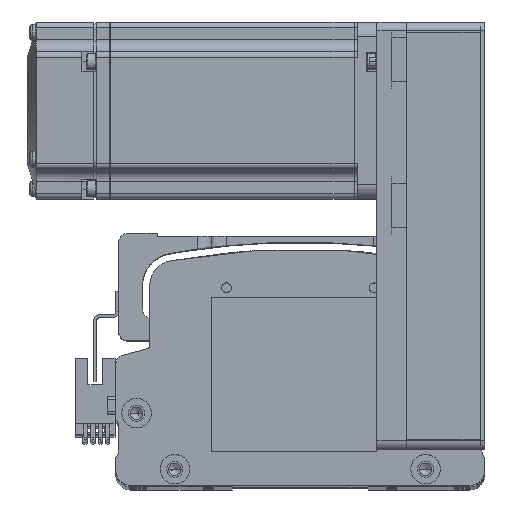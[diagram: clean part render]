
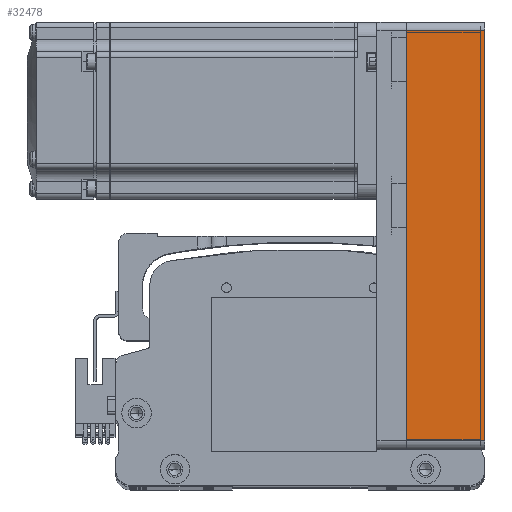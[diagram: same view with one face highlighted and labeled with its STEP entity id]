
A CAD part, top view. The second image highlights one B-rep face of the part: STEP entity #32478.
In plain terms, the highlighted planar face has unit normal (0, 0, 1) as drawn and (0, 1, 0) by its records, which use the part's own axes.
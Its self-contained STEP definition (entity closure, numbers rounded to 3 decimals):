
#1349 = DIRECTION ( 'NONE',  ( 1., 0., 0. ) ) ;
#1686 = CARTESIAN_POINT ( 'NONE',  ( -69.5, 30., 26.5 ) ) ;
#14342 = ORIENTED_EDGE ( 'NONE', *, *, #75608, .T. ) ;
#15457 = EDGE_LOOP ( 'NONE', ( #14342, #37937, #72542, #62306 ) ) ;
#19394 = CARTESIAN_POINT ( 'NONE',  ( 69.5, 30., 0. ) ) ;
#26218 = PLANE ( 'NONE',  #64151 ) ;
#30202 = LINE ( 'NONE', #1686, #61743 ) ;
#30558 = EDGE_CURVE ( 'NONE', #80191, #37747, #78664, .T. ) ;
#30627 = VECTOR ( 'NONE', #79756, 1000. ) ;
#31403 = CARTESIAN_POINT ( 'NONE',  ( 72.5, 30., 0. ) ) ;
#32478 = ADVANCED_FACE ( 'NONE', ( #79203 ), #26218, .F. ) ;
#35023 = CARTESIAN_POINT ( 'NONE',  ( -69.5, 30., 0. ) ) ;
#35789 = CARTESIAN_POINT ( 'NONE',  ( 72.5, 30., 26.5 ) ) ;
#37747 = VERTEX_POINT ( 'NONE', #19394 ) ;
#37937 = ORIENTED_EDGE ( 'NONE', *, *, #42157, .T. ) ;
#38494 = LINE ( 'NONE', #31403, #53284 ) ;
#39218 = DIRECTION ( 'NONE',  ( 0., -1., 0. ) ) ;
#42157 = EDGE_CURVE ( 'NONE', #63994, #71815, #30202, .T. ) ;
#45883 = DIRECTION ( 'NONE',  ( 0., 0., 1. ) ) ;
#53284 = VECTOR ( 'NONE', #69077, 1000. ) ;
#57710 = DIRECTION ( 'NONE',  ( 0., 0., -1. ) ) ;
#61743 = VECTOR ( 'NONE', #45883, 1000. ) ;
#61996 = VECTOR ( 'NONE', #57710, 1000. ) ;
#62306 = ORIENTED_EDGE ( 'NONE', *, *, #30558, .T. ) ;
#63994 = VERTEX_POINT ( 'NONE', #35023 ) ;
#64151 = AXIS2_PLACEMENT_3D ( 'NONE', #76833, #39218, #1349 ) ;
#64354 = CARTESIAN_POINT ( 'NONE',  ( -69.5, 30., 26.5 ) ) ;
#66108 = EDGE_CURVE ( 'NONE', #80191, #71815, #80823, .T. ) ;
#69077 = DIRECTION ( 'NONE',  ( -1., 0., 0. ) ) ;
#71718 = CARTESIAN_POINT ( 'NONE',  ( 69.5, 30., 26.5 ) ) ;
#71815 = VERTEX_POINT ( 'NONE', #64354 ) ;
#72542 = ORIENTED_EDGE ( 'NONE', *, *, #66108, .F. ) ;
#75608 = EDGE_CURVE ( 'NONE', #37747, #63994, #38494, .T. ) ;
#75817 = CARTESIAN_POINT ( 'NONE',  ( 69.5, 30., 26.5 ) ) ;
#76833 = CARTESIAN_POINT ( 'NONE',  ( 72.5, 30., 26.5 ) ) ;
#78664 = LINE ( 'NONE', #75817, #61996 ) ;
#79203 = FACE_OUTER_BOUND ( 'NONE', #15457, .T. ) ;
#79756 = DIRECTION ( 'NONE',  ( -1., 0., 0. ) ) ;
#80191 = VERTEX_POINT ( 'NONE', #71718 ) ;
#80823 = LINE ( 'NONE', #35789, #30627 ) ;
